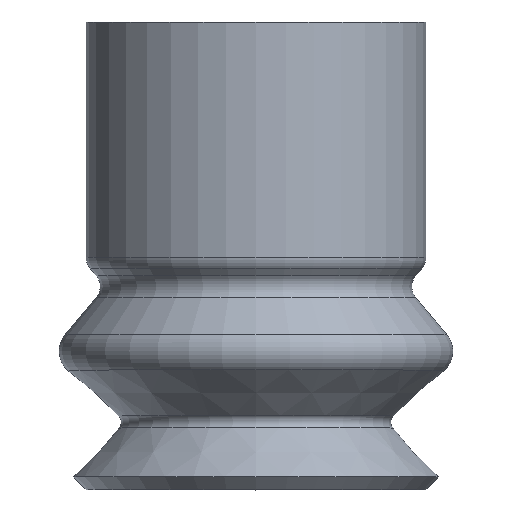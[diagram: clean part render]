
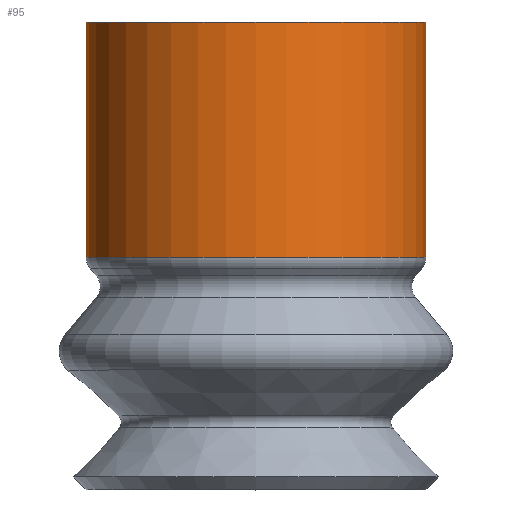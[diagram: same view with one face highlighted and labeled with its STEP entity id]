
A CAD part, top view. The second image highlights one B-rep face of the part: STEP entity #95.
In plain terms, the highlighted cylindrical face has radius 2 mm (diameter 4 mm), a full revolution.
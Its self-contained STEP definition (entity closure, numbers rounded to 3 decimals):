
#95=ADVANCED_FACE('',(#161,#162),#163,.T.);
#161=FACE_OUTER_BOUND('',#236,.T.);
#162=FACE_OUTER_BOUND('',#237,.T.);
#163=CYLINDRICAL_SURFACE('',#238,2.0);
#236=EDGE_LOOP('',(#351));
#237=EDGE_LOOP('',(#352));
#238=AXIS2_PLACEMENT_3D('',#353,#354,#355);
#351=ORIENTED_EDGE('',*,*,#386,.T.);
#352=ORIENTED_EDGE('',*,*,#400,.T.);
#353=CARTESIAN_POINT('',(0.0,0.0,0.0));
#354=DIRECTION('',(0.0,-1.0,0.));
#355=DIRECTION('',(0.0,0.,-1.0));
#386=EDGE_CURVE('',#421,#421,#422,.T.);
#400=EDGE_CURVE('',#449,#449,#450,.T.);
#421=VERTEX_POINT('',#471);
#422=CIRCLE('',#472,2.0);
#449=VERTEX_POINT('',#499);
#450=CIRCLE('',#500,2.0);
#471=CARTESIAN_POINT('',(0.0,8.664,2.0));
#472=AXIS2_PLACEMENT_3D('',#531,#532,#533);
#499=CARTESIAN_POINT('',(2.0,11.431,0.));
#500=AXIS2_PLACEMENT_3D('',#573,#574,#575);
#531=CARTESIAN_POINT('',(0.0,8.664,0.));
#532=DIRECTION('',(0.0,1.0,0.));
#533=DIRECTION('',(0.0,0.,1.0));
#573=CARTESIAN_POINT('',(0.0,11.431,0.));
#574=DIRECTION('',(0.0,-1.0,0.));
#575=DIRECTION('',(0.0,0.,-1.0));
